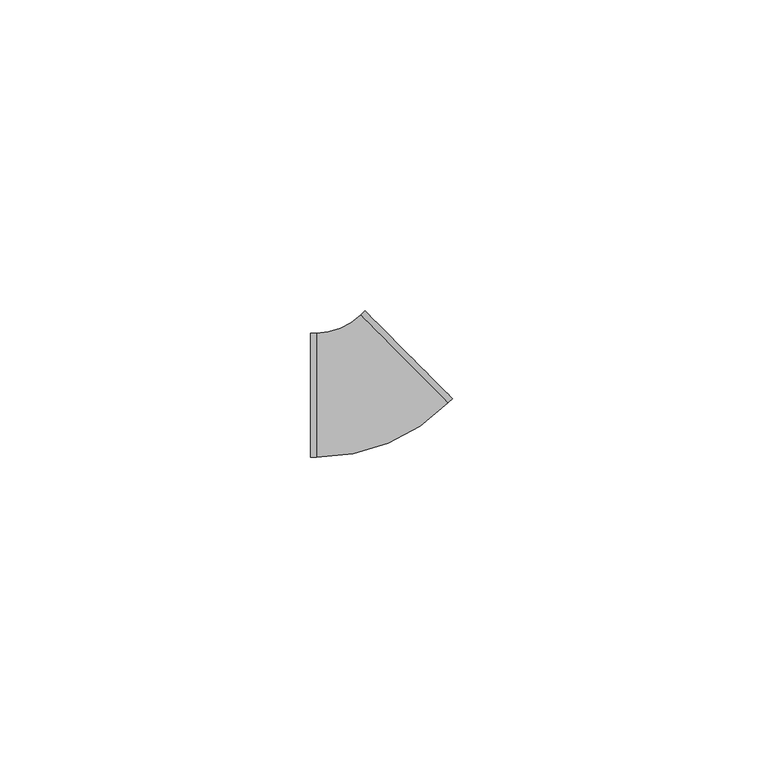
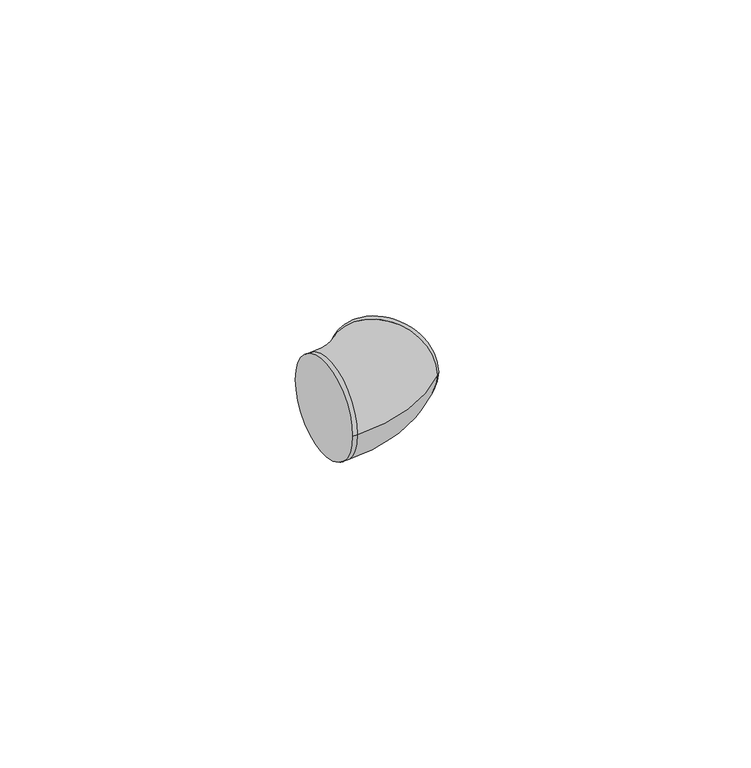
"""IFC4 building model written with IfcOpenShell, lengths in millimetres: cable carrier fitting geometry, ADSK_Поворот_Минимальный размер : Неспецифицируемый."""

import ifcopenshell
import ifcopenshell.guid

model = None  # the IFC model being written
_history = None  # IfcOwnerHistory: only IFC2X3 demands one
_inside = {}  # id of a spatial element -> (the spatial element, [elements in it])
_under = {}  # id of a project, library or spatial element -> (it, [spatial elements below it])
_declared = {}  # id of a project -> (the project, [libraries it declares])
_typed = {}  # id of a type object -> (the type object, [elements of that type])
_made_of = {}  # id of a material, layer set ... -> (it, [elements and type objects made of it])


def new_model(schema):
    """Start an empty IFC model of exactly this schema.

    Asked for "IFC4X3", IfcOpenShell would pick the latest addendum, in which some entities
    have other attributes; the version numbers below select the first issue.
    IFC2X3 requires an IfcOwnerHistory on every rooted entity: one is made here for all.
    """
    global model, _history
    if schema == "IFC4X3":
        model = ifcopenshell.file(schema_version=(4, 3, 0, 0))
    else:
        model = ifcopenshell.file(schema=schema)
    _inside.clear()
    _under.clear()
    _declared.clear()
    _typed.clear()
    _made_of.clear()
    _history = None
    if model.schema == "IFC2X3":
        org = make("IfcOrganization", Name="unknown")
        user = make(
            "IfcPersonAndOrganization",
            ThePerson=make("IfcPerson", FamilyName="unknown"),
            TheOrganization=org,
        )
        app = make(
            "IfcApplication",
            ApplicationDeveloper=org,
            Version="unknown",
            ApplicationFullName="unknown",
            ApplicationIdentifier="unknown",
        )
        _history = make(
            "IfcOwnerHistory",
            OwningUser=user,
            OwningApplication=app,
            ChangeAction="ADDED",
            CreationDate=0,
        )
    return model


def make(cls, **values):
    """One entity of the class cls with the attributes given. An attribute that is None is left unset."""
    return model.create_entity(
        cls, **{name: value for name, value in values.items() if value is not None}
    )


def rooted(cls, **values):
    """An entity with a GlobalId (a new one), such as an element, a storey or a relation."""
    return make(cls, GlobalId=ifcopenshell.guid.new(), OwnerHistory=_history, **values)


def si_unit(unit_type, name, prefix=None):
    """IfcSIUnit, for example si_unit("LENGTHUNIT", "METRE", prefix="MILLI")."""
    return make("IfcSIUnit", UnitType=unit_type, Prefix=prefix, Name=name)


def assignment(units):
    """IfcUnitAssignment: the units of a project."""
    return None if units is None else make("IfcUnitAssignment", Units=units)


def point(xyz):
    """IfcCartesianPoint."""
    return None if xyz is None else make("IfcCartesianPoint", Coordinates=xyz)


def direction(xyz):
    """IfcDirection."""
    return None if xyz is None else make("IfcDirection", DirectionRatios=xyz)


def frame(location, z_axis=None, x_axis=None):
    """IfcAxis2Placement3D, a coordinate frame: its origin and axes. An axis left out is left unset."""
    return make(
        "IfcAxis2Placement3D",
        Location=point(location),
        Axis=direction(z_axis),
        RefDirection=direction(x_axis),
    )


def origin():
    """The frame at (0, 0, 0) with its axes left unset."""
    return frame((0.0, 0.0, 0.0))


def place(relative_to, where):
    """IfcLocalPlacement: puts the frame where relative to a parent placement (None: the world)."""
    return make(
        "IfcLocalPlacement", PlacementRelTo=relative_to, RelativePlacement=where
    )


def context(
    kind, dimensions, precision=None, world=None, true_north=None, identifier=None
):
    """IfcGeometricRepresentationContext, for example the 3D "Model" context."""
    return make(
        "IfcGeometricRepresentationContext",
        ContextIdentifier=identifier,
        ContextType=kind,
        CoordinateSpaceDimension=dimensions,
        Precision=precision,
        WorldCoordinateSystem=world,
        TrueNorth=true_north,
    )


def project(units=None, contexts=None):
    """IfcProject with its units and contexts."""
    return rooted(
        "IfcProject",
        Name="project",
        RepresentationContexts=contexts,
        UnitsInContext=assignment(units),
    )


def spatial(cls, under=None, at=None, **own):
    """A site, building, storey or space (cls), placed at a placement, below another one or the project."""
    s = rooted(cls, ObjectPlacement=at, **own)
    if under is not None:
        _under.setdefault(under.id(), (under, []))[1].append(s)
    return s


def circle_curve(where, radius):
    """IfcCircle in the frame where."""
    return make("IfcCircle", Position=where, Radius=radius)


def ellipse_curve(where, semi_axis1, semi_axis2):
    """IfcEllipse in the frame where."""
    return make(
        "IfcEllipse", Position=where, SemiAxis1=semi_axis1, SemiAxis2=semi_axis2
    )


def trimmed(basis, trim1, trim2, sense, master):
    """IfcTrimmedCurve: the piece of a basis curve between two trims."""
    return make(
        "IfcTrimmedCurve",
        BasisCurve=basis,
        Trim1=trim1,
        Trim2=trim2,
        SenseAgreement=sense,
        MasterRepresentation=master,
    )


def shape(context_of_items, identifier, shape_type, items):
    """IfcShapeRepresentation: the items that make up one representation, for example the "Body"."""
    return make(
        "IfcShapeRepresentation",
        ContextOfItems=context_of_items,
        RepresentationIdentifier=identifier,
        RepresentationType=shape_type,
        Items=items,
    )


def source(mapping_origin, context_of_items, identifier, shape_type, items):
    """IfcRepresentationMap: a shape defined once, which mapped items show again and again."""
    return make(
        "IfcRepresentationMap",
        MappingOrigin=mapping_origin,
        MappedRepresentation=shape(context_of_items, identifier, shape_type, items),
    )


def transform(
    local_origin,
    x_axis=None,
    y_axis=None,
    z_axis=None,
    scale=None,
    scale2=None,
    scale3=None,
    uniform=True,
):
    """IfcCartesianTransformationOperator3D, or its non-uniform kind. x_axis, y_axis, z_axis: its Axis1, 2, 3."""
    if uniform:
        return make(
            "IfcCartesianTransformationOperator3D",
            Axis1=direction(x_axis),
            Axis2=direction(y_axis),
            LocalOrigin=point(local_origin),
            Scale=scale,
            Axis3=direction(z_axis),
        )
    return make(
        "IfcCartesianTransformationOperator3DnonUniform",
        Axis1=direction(x_axis),
        Axis2=direction(y_axis),
        LocalOrigin=point(local_origin),
        Scale=scale,
        Axis3=direction(z_axis),
        Scale2=scale2,
        Scale3=scale3,
    )


def mapped(mapping_source, mapping_target):
    """IfcMappedItem: shows the shape of a source again, moved by a transform."""
    return make(
        "IfcMappedItem", MappingSource=mapping_source, MappingTarget=mapping_target
    )


def made_of(thing, what):
    """Note that an element or type object is made of a material, layer set ...; save() writes the relation."""
    if what is not None:
        _made_of.setdefault(what.id(), (what, []))[1].append(thing)
    return thing


def element(
    cls,
    number,
    at=None,
    inside=None,
    cuts=None,
    type_object=None,
    material=None,
    context=None,
    identifier="Body",
    shape_type=None,
    held_by="IfcProductDefinitionShape",
    body=None,
    shapes=None,
    **own,
):
    """One element of the class cls, such as IfcWall. Its Tag is "e" and its number.

    at: its placement. inside: the storey or other place that contains it. cuts: it is an
    opening in that element (IfcRelVoidsElement). A single representation is given by context,
    identifier, shape_type and body (its items); several are given by shapes. held_by: the class
    of the entity that holds the representations. save() writes the other relations.
    """
    e = rooted(cls, Tag="e%d" % number, ObjectPlacement=at, **own)
    if body is not None:
        shapes = [shape(context, identifier, shape_type, body)]
    if shapes is not None:
        e.Representation = make(held_by, Representations=shapes)
    if inside is not None:
        _inside.setdefault(inside.id(), (inside, []))[1].append(e)
    if cuts is not None:
        rooted(
            "IfcRelVoidsElement", RelatingBuildingElement=cuts, RelatedOpeningElement=e
        )
    if type_object is not None:
        _typed.setdefault(type_object.id(), (type_object, []))[1].append(e)
    return made_of(e, material)


def aggregate(whole, parts):
    """IfcRelAggregates: a whole, such as a stair, and the parts it consists of."""
    return rooted("IfcRelAggregates", RelatingObject=whole, RelatedObjects=parts)


def save(model, path):
    """Write the relations noted so far, then the file.

    IfcRelAggregates (storeys below a building ...), IfcRelContainedInSpatialStructure (elements
    in a storey), IfcRelDefinesByType, IfcRelAssociatesMaterial and IfcRelDeclares: one each for
    every whole, place, type object, material and project.
    """
    for whole, parts in _under.values():
        aggregate(whole, parts)
    for where, things in _inside.values():
        rooted(
            "IfcRelContainedInSpatialStructure",
            RelatedElements=things,
            RelatingStructure=where,
        )
    for kind, things in _typed.values():
        rooted("IfcRelDefinesByType", RelatedObjects=things, RelatingType=kind)
    for what, things in _made_of.values():
        rooted("IfcRelAssociatesMaterial", RelatedObjects=things, RelatingMaterial=what)
    for by, libraries in _declared.values():
        rooted("IfcRelDeclares", RelatingContext=by, RelatedDefinitions=libraries)
    model.write(path)


def plane_surface(at):
    """IfcPlane: the flat surface through the origin of the frame at, square to its z axis."""
    return make("IfcPlane", Position=at)


def cylinder_surface(at, radius):
    """IfcCylindricalSurface: all points at the distance radius from the z axis of the frame at."""
    return make("IfcCylindricalSurface", Position=at, Radius=radius)


def revolved_surface(curve, axis_point, axis_direction):
    """IfcSurfaceOfRevolution: the curve turned about the line through axis_point along axis_direction."""
    return make(
        "IfcSurfaceOfRevolution",
        SweptCurve=make("IfcArbitraryOpenProfileDef", ProfileType="CURVE", Curve=curve),
        AxisPosition=make("IfcAxis1Placement", Location=point(axis_point), Axis=direction(axis_direction)),
    )


def advanced_brep(points, edges, surfaces, faces):
    """IfcAdvancedBrep: a solid bounded by faces that lie on surfaces and meet in shared edges.

    An edge is (start, end): straight between two places in points (the first is 0);
    or (start, end, curve); or (start, end, curve, False) where it runs against its curve.
    A face is (place in surfaces, loops), or (place, loops, False) where it looks against
    its surface's normal. A loop lists edges by number (the first is 1), with a minus sign
    where the edge is run from its end to its start. The first loop is the outer one.
    """
    corners = [point(p) for p in points]
    vertices = [make("IfcVertexPoint", VertexGeometry=c) for c in corners]
    made = []
    for start, end, *more in edges:
        made.append(
            make(
                "IfcEdgeCurve",
                EdgeStart=vertices[start],
                EdgeEnd=vertices[end],
                EdgeGeometry=more[0] if more else make("IfcPolyline", Points=[corners[start], corners[end]]),
                SameSense=more[1] if len(more) > 1 else True,
            )
        )
    hull = []
    for where, loops, *sense in faces:
        bounds = []
        for j, loop in enumerate(loops):
            ring = [make("IfcOrientedEdge", EdgeElement=made[abs(k) - 1], Orientation=k > 0) for k in loop]
            bounds.append(
                make(
                    "IfcFaceOuterBound" if j == 0 else "IfcFaceBound",
                    Bound=make("IfcEdgeLoop", EdgeList=ring),
                    Orientation=True,
                )
            )
        hull.append(make("IfcAdvancedFace", Bounds=bounds, FaceSurface=surfaces[where], SameSense=sense[0] if sense else True))
    return make("IfcAdvancedBrep", Outer=make("IfcClosedShell", CfsFaces=hull))


def cable_carrier_fitting_75c703e7(model_context):
    return source(origin(), model_context, "Body", "AdvancedBrep", [
        advanced_brep(
        [(-9.2660723, -10.0, 0.0), (-9.2660723, 10.0, 0.0), (-8.2660723, -10.0, 0.0), (-8.2660723, 10.0, 0.0), (-1.2060006, 12.9179532, 0.0), (12.9141429, -1.2461405, 0.0), (13.6223475, -0.5401333, 0.0), (-0.4977959, 13.6239603, 0.0)],
        [
            (0, 1, circle_curve(frame((-9.2660723, 0.0, 0.0), z_axis=(-1.0, -4.92260399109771e-12, 0.0), x_axis=(-4.92260399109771e-12, 1.0, 0.0)), 10.0)),
            (1, 0, circle_curve(frame((-9.2660723, 0.0, 0.0), z_axis=(-1.0, -4.92260399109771e-12, 0.0), x_axis=(-4.92260399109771e-12, 1.0, 0.0)), 10.0)),
            (0, 2),
            (2, 3, circle_curve(frame((-8.2660723, 0.0, 0.0), z_axis=(-1.0, -4.92260399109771e-12, 0.0), x_axis=(-4.92260399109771e-12, 1.0, 0.0)), 10.0)),
            (3, 1),
            (3, 2, circle_curve(frame((-8.2660723, 0.0, 0.0), z_axis=(-1.0, -4.92260399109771e-12, 0.0), x_axis=(-4.92260399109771e-12, 1.0, 0.0)), 10.0)),
            (4, 3, circle_curve(frame((-8.2660723, 20.0, 0.0), z_axis=(0.0, 0.0, -1.0), x_axis=(0.0, -1.0, 0.0)), 10.0)),
            (2, 5, circle_curve(frame((-8.2660723, 20.0, 0.0), z_axis=(0.0, 0.0, 1.0), x_axis=(0.0, -1.0, 0.0)), 30.0)),
            (5, 4, circle_curve(frame((5.8540711, 5.8359064, 0.0), z_axis=(-0.7082046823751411, -0.7060071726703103, 0.0), x_axis=(-0.7060071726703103, 0.7082046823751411, 0.0)), 10.0)),
            (4, 5, circle_curve(frame((5.8540711, 5.8359064, 0.0), z_axis=(-0.7082046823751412, -0.7060071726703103, 0.0), x_axis=(-0.7060071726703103, 0.7082046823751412, 0.0)), 10.0)),
            (6, 7, circle_curve(frame((6.5622758, 6.5419135, 0.0), z_axis=(0.7082046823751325, 0.7060071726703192, 0.0), x_axis=(-0.7060071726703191, 0.7082046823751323, 0.0)), 10.0)),
            (7, 6, circle_curve(frame((6.5622758, 6.5419135, 0.0), z_axis=(0.7082046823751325, 0.7060071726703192, 0.0), x_axis=(-0.7060071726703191, 0.7082046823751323, 0.0)), 10.0)),
            (5, 6),
            (7, 4),
        ],
        [
            plane_surface(frame((-9.2660723, 0.0, 0.0), z_axis=(-1.0, -4.92260399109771e-12, 0.0), x_axis=(0.0, 0.0, 1.0))),
            cylinder_surface(frame((-9.2660723, 0.0, 0.0), z_axis=(-1.0, -4.92260399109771e-12, 0.0), x_axis=(-4.92260399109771e-12, 1.0, 0.0)), 10.0),
            revolved_surface(trimmed(ellipse_curve(frame((-8.2660723, 0.0, 0.0), z_axis=(-1.0, 0.0, 0.0), x_axis=(0.0, 1.0, 0.0)), 10.0, 10.0), [point((-8.2660723, -10.0, 0.0))], [point((-8.2660723, 10.0, 0.0))], True, "CARTESIAN"), (-8.2660723, 20.0, 0.0), (0.0, 0.0, 1.0)),
            revolved_surface(trimmed(ellipse_curve(frame((-8.2660723, 0.0, 0.0), z_axis=(-1.0, 0.0, 0.0), x_axis=(0.0, 1.0, 0.0)), 10.0, 10.0), [point((-8.2660723, 10.0, 0.0))], [point((-8.2660723, -10.0, 0.0))], True, "CARTESIAN"), (-8.2660723, 20.0, 0.0), (0.0, 0.0, 1.0)),
            plane_surface(frame((6.5622758, 6.5419135, 0.0), z_axis=(0.7082046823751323, 0.7060071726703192, 0.0), x_axis=(0.0, 0.0, 1.0))),
            cylinder_surface(frame((5.8540711, 5.8359064, 0.0), z_axis=(-0.7082046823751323, -0.7060071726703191, 0.0), x_axis=(-0.7060071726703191, 0.7082046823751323, 0.0)), 10.0),
        ],
        [
            (0, [[1, 2]]),
            (1, [[-1, 3, 4, 5]]),
            (1, [[-2, -5, 6, -3]]),
            (2, [[7, -4, 8, 9]]),
            (3, [[-8, -6, -7, 10]]),
            (4, [[11, 12]]),
            (5, [[-9, 13, -12, 14]]),
            (5, [[-10, -14, -11, -13]]),
        ],
    ),
    ])


if __name__ == "__main__":
    model = new_model("IFC4")
    model_context = context("Model", 3, world=origin())
    ifc_project = project(units=[si_unit("LENGTHUNIT", "METRE", prefix="MILLI")], contexts=[model_context])
    site = spatial("IfcSite", under=ifc_project)
    building = spatial("IfcBuilding", under=site)
    placement = place(None, origin())
    cable_carrier_fitting_shape = cable_carrier_fitting_75c703e7(model_context)
    element("IfcCableCarrierFitting", 1, ObjectType="ADSK_Поворот_Минимальный размер : Неспецифицируемый", at=placement, inside=building, context=model_context, shape_type="MappedRepresentation", body=[
        mapped(cable_carrier_fitting_shape, transform((0.0, 0.0, 0.0), x_axis=(1.0, 0.0, 0.0), y_axis=(0.0, 1.0, 0.0), z_axis=(0.0, 0.0, 1.0))),
    ])
    save(model, "model.ifc")
